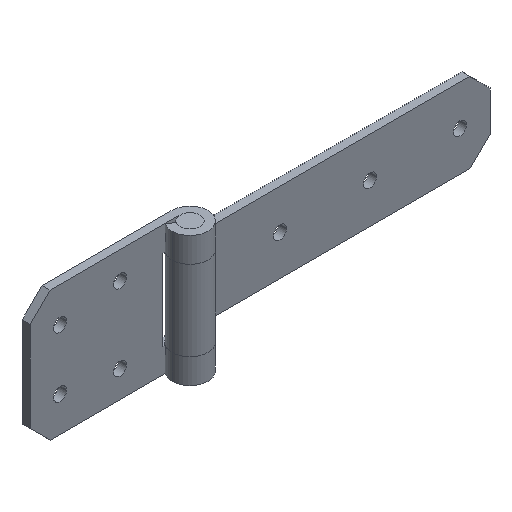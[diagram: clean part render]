
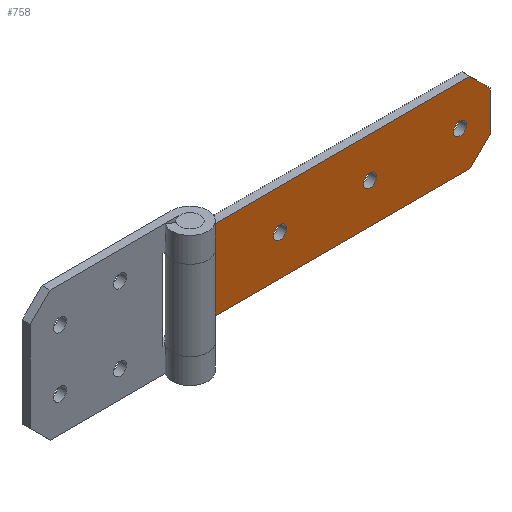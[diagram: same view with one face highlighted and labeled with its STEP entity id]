
A CAD part, isometric view. The second image highlights one B-rep face of the part: STEP entity #758.
In plain terms, the highlighted planar face has unit normal (0, -1, 0).
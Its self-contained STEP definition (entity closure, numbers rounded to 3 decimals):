
#216=CARTESIAN_POINT('',(143.25,5.0,32.5));
#217=VERTEX_POINT('',#216);
#233=CARTESIAN_POINT('',(136.75,5.0,32.5));
#234=VERTEX_POINT('',#233);
#241=CARTESIAN_POINT('',(140.0,5.,32.5));
#242=DIRECTION('',(0.0,1.0,0.0));
#243=DIRECTION('',(1.0,0.0,0.0));
#244=AXIS2_PLACEMENT_3D('',#241,#242,#243);
#245=CIRCLE('',#244,3.25);
#246=EDGE_CURVE('',#217,#234,#245,.T.);
#258=CARTESIAN_POINT('',(98.25,5.0,32.5));
#259=VERTEX_POINT('',#258);
#275=CARTESIAN_POINT('',(91.75,5.0,32.5));
#276=VERTEX_POINT('',#275);
#283=CARTESIAN_POINT('',(95.0,5.,32.5));
#284=DIRECTION('',(0.0,1.0,0.0));
#285=DIRECTION('',(1.0,0.0,0.0));
#286=AXIS2_PLACEMENT_3D('',#283,#284,#285);
#287=CIRCLE('',#286,3.25);
#288=EDGE_CURVE('',#259,#276,#287,.T.);
#300=CARTESIAN_POINT('',(53.25,5.0,32.5));
#301=VERTEX_POINT('',#300);
#317=CARTESIAN_POINT('',(46.75,5.0,32.5));
#318=VERTEX_POINT('',#317);
#325=CARTESIAN_POINT('',(50.0,5.,32.5));
#326=DIRECTION('',(0.0,1.0,0.0));
#327=DIRECTION('',(1.0,0.0,0.0));
#328=AXIS2_PLACEMENT_3D('',#325,#326,#327);
#329=CIRCLE('',#328,3.25);
#330=EDGE_CURVE('',#301,#318,#329,.T.);
#409=CARTESIAN_POINT('',(0.,5.0,12.5));
#410=VERTEX_POINT('',#409);
#418=CARTESIAN_POINT('',(0.0,5.0,52.5));
#419=VERTEX_POINT('',#418);
#420=CARTESIAN_POINT('',(0.,5.0,12.5));
#421=DIRECTION('',(0.0,0.0,1.0));
#422=VECTOR('',#421,40.0);
#423=LINE('',#420,#422);
#424=EDGE_CURVE('',#410,#419,#423,.T.);
#519=CARTESIAN_POINT('',(50.0,5.,32.5));
#520=DIRECTION('',(0.0,1.0,0.0));
#521=DIRECTION('',(1.0,0.0,0.0));
#522=AXIS2_PLACEMENT_3D('',#519,#520,#521);
#523=CIRCLE('',#522,3.25);
#524=EDGE_CURVE('',#318,#301,#523,.T.);
#543=CARTESIAN_POINT('',(95.0,5.,32.5));
#544=DIRECTION('',(0.0,1.0,0.0));
#545=DIRECTION('',(1.0,0.0,0.0));
#546=AXIS2_PLACEMENT_3D('',#543,#544,#545);
#547=CIRCLE('',#546,3.25);
#548=EDGE_CURVE('',#276,#259,#547,.T.);
#567=CARTESIAN_POINT('',(140.0,5.,32.5));
#568=DIRECTION('',(0.0,1.0,0.0));
#569=DIRECTION('',(1.0,0.0,0.0));
#570=AXIS2_PLACEMENT_3D('',#567,#568,#569);
#571=CIRCLE('',#570,3.25);
#572=EDGE_CURVE('',#234,#217,#571,.T.);
#590=CARTESIAN_POINT('',(155.0,5.,22.5));
#591=VERTEX_POINT('',#590);
#592=CARTESIAN_POINT('',(145.0,5.,12.5));
#593=VERTEX_POINT('',#592);
#594=CARTESIAN_POINT('',(155.0,5.,22.5));
#595=DIRECTION('',(-0.707,0.,-0.707));
#596=VECTOR('',#595,14.142);
#597=LINE('',#594,#596);
#598=EDGE_CURVE('',#591,#593,#597,.T.);
#638=CARTESIAN_POINT('',(155.0,5.,42.5));
#639=VERTEX_POINT('',#638);
#646=CARTESIAN_POINT('',(155.0,5.,22.5));
#647=DIRECTION('',(0.0,0.0,1.0));
#648=VECTOR('',#647,20.);
#649=LINE('',#646,#648);
#650=EDGE_CURVE('',#591,#639,#649,.T.);
#669=CARTESIAN_POINT('',(145.0,5.,52.5));
#670=VERTEX_POINT('',#669);
#677=CARTESIAN_POINT('',(145.0,5.,52.5));
#678=DIRECTION('',(0.707,0.0,-0.707));
#679=VECTOR('',#678,14.142);
#680=LINE('',#677,#679);
#681=EDGE_CURVE('',#670,#639,#680,.T.);
#723=CARTESIAN_POINT('',(76.121,5.,42.27));
#724=DIRECTION('',(0.0,1.0,0.0));
#725=DIRECTION('',(-1.0,0.0,0.0));
#726=AXIS2_PLACEMENT_3D('',#723,#724,#725);
#727=PLANE('',#726);
#728=ORIENTED_EDGE('',*,*,#424,.F.);
#729=CARTESIAN_POINT('',(145.0,5.,12.5));
#730=DIRECTION('',(-1.0,0.0,0.0));
#731=VECTOR('',#730,145.0);
#732=LINE('',#729,#731);
#733=EDGE_CURVE('',#593,#410,#732,.T.);
#734=ORIENTED_EDGE('',*,*,#733,.F.);
#735=ORIENTED_EDGE('',*,*,#598,.F.);
#736=ORIENTED_EDGE('',*,*,#650,.T.);
#737=ORIENTED_EDGE('',*,*,#681,.F.);
#738=CARTESIAN_POINT('',(0.0,5.0,52.5));
#739=DIRECTION('',(1.0,0.0,0.0));
#740=VECTOR('',#739,145.0);
#741=LINE('',#738,#740);
#742=EDGE_CURVE('',#419,#670,#741,.T.);
#743=ORIENTED_EDGE('',*,*,#742,.F.);
#744=EDGE_LOOP('',(#728,#734,#735,#736,#737,#743));
#745=FACE_OUTER_BOUND('',#744,.T.);
#746=ORIENTED_EDGE('',*,*,#330,.T.);
#747=ORIENTED_EDGE('',*,*,#524,.T.);
#748=EDGE_LOOP('',(#746,#747));
#749=FACE_BOUND('',#748,.T.);
#750=ORIENTED_EDGE('',*,*,#288,.T.);
#751=ORIENTED_EDGE('',*,*,#548,.T.);
#752=EDGE_LOOP('',(#750,#751));
#753=FACE_BOUND('',#752,.T.);
#754=ORIENTED_EDGE('',*,*,#246,.T.);
#755=ORIENTED_EDGE('',*,*,#572,.T.);
#756=EDGE_LOOP('',(#754,#755));
#757=FACE_BOUND('',#756,.T.);
#758=ADVANCED_FACE('',(#745,#749,#753,#757),#727,.F.);
